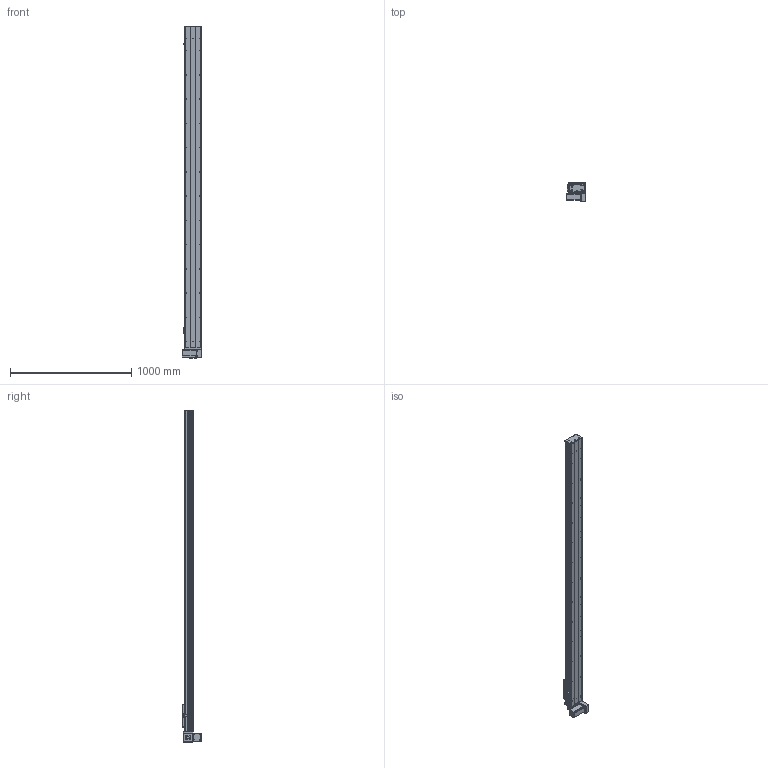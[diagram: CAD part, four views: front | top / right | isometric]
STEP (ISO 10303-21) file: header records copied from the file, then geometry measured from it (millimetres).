
FILE_DESCRIPTION (( 'STEP AP203' ), '1' );
FILE_NAME ('Y135CB-D90-S2350-BM-P400W.STEP', '2020-02-19T01:50:08', ( '微软用户' ), ( '微软中国' ), 'SwSTEP 2.0', 'SolidWorks 2017', '' );
FILE_SCHEMA (( 'CONFIG_CONTROL_DESIGN' ));
Length unit declared in the file: millimetre
Products named in the file (18): Y135C-陔俋离換覜結え-; 0B-埴倛裔啣; 5C--俋欶; 0B-源倛裔啣; C-雄赽釱--; 0B-萇儂楊擘啣; Y10B--々湍喘謫眊--666; san松下电机400不带刹车----; 00B-俋欶BM--; 5CB --掛极耜裔啣-; Y10B-耜蚾蟀諉啣----; C-詩湍揤踡え-陔; Y135CB-耜裔; Y135CB-D90-S2350-BM-P400W; 135CB--詩湍-CE; 135CB---遴掛极.-; Y100-135俋离換覜ん--; 35CB---喘謫眊楊擘啣
Assembly tree (21 placements, depth 2):
  Y135CB-D90-S2350-BM-P400W
    Y135CB-耜裔
    135CB---遴掛极.-
    35CB---喘謫眊楊擘啣
    0B-埴倛裔啣
    0B-源倛裔啣
    0B-萇儂楊擘啣
    san松下电机400不带刹车----
    5CB --掛极耜裔啣-  x2
    C-詩湍揤踡え-陔  x2
    135CB--詩湍-CE
    Y100-135俋离換覜ん--  x3
    Y135C-陔俋离換覜結え-
    5C--俋欶
    C-雄赽釱--
    Y10B--々湍喘謫眊--666
    00B-俋欶BM--
    Y10B-耜蚾蟀諉啣----
Bounding box: 157 x 163.3 x 2738 mm (x, y, z)
Volume: 7892225.9 mm3; surface area: 3123650.9 mm2
Topology: 21 solids, 21 shells, 973 faces, 2653 edges, 1758 vertices
Faces by surface type: cylinder 501, plane 456, cone 16
Entity records: 30763 total; most frequent: CARTESIAN_POINT 5120, DIRECTION 5113, ORIENTED_EDGE 4782, EDGE_CURVE 2391, AXIS2_PLACEMENT_3D 1875, VERTEX_POINT 1586, LINE 1363, VECTOR 1363
